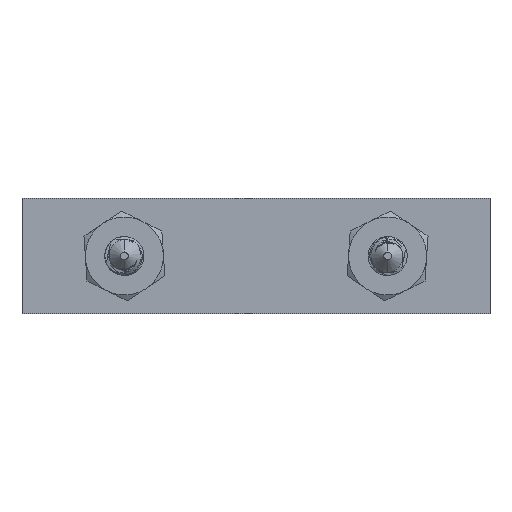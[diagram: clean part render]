
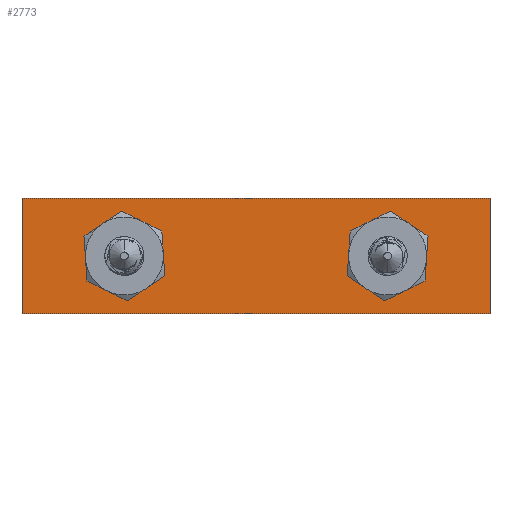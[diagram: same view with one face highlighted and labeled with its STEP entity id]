
A CAD part, front view. The second image highlights one B-rep face of the part: STEP entity #2773.
In plain terms, the highlighted planar face has unit normal (0, -1, 0).
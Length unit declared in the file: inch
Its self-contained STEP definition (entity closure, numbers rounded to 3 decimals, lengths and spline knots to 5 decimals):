
#205 = CARTESIAN_POINT ( 'NONE',  ( 3., 0.05, 0.37165 ) ) ;
#399 = EDGE_LOOP ( 'NONE', ( #7764, #10011 ) ) ;
#897 = EDGE_CURVE ( 'Edge12', #5875, #11857, #14038, .T. ) ;
#1964 = CARTESIAN_POINT ( 'NONE',  ( 3., 0.05, 0.875 ) ) ;
#2041 = CARTESIAN_POINT ( 'NONE',  ( 0.65625, 0.05, 0. ) ) ;
#2093 = FACE_BOUND ( 'NONE', #399, .T. ) ;
#2246 = CIRCLE ( 'NONE', #16983, 0.1875 ) ;
#2731 = LINE ( 'NONE', #9289, #3284 ) ;
#2773 = ADVANCED_FACE ( 'Face6', ( #15743, #11765, #2093 ), #15575, .T. ) ;
#2836 = LINE ( 'NONE', #5626, #16326 ) ;
#3060 = CIRCLE ( 'NONE', #3925, 0.1875 ) ;
#3176 = VERTEX_POINT ( 'NONE', #4861 ) ;
#3284 = VECTOR ( 'NONE', #7972, 39.37008 ) ;
#3514 = VERTEX_POINT ( 'NONE', #6976 ) ;
#3655 = CARTESIAN_POINT ( 'NONE',  ( 0.65625, 0.05, 0. ) ) ;
#3734 = DIRECTION ( 'NONE',  ( 0., 0., -1. ) ) ;
#3925 = AXIS2_PLACEMENT_3D ( 'NONE', #6370, #14138, #8832 ) ;
#4048 = DIRECTION ( 'NONE',  ( 0., 0., 1. ) ) ;
#4134 = ORIENTED_EDGE ( 'NONE', *, *, #7220, .T. ) ;
#4137 = CARTESIAN_POINT ( 'NONE',  ( 2.34375, 0.05, 0. ) ) ;
#4541 = EDGE_CURVE ( 'Edge13', #11901, #14878, #2731, .T. ) ;
#4861 = CARTESIAN_POINT ( 'NONE',  ( 2.34375, 0.05, -0.1875 ) ) ;
#4889 = VERTEX_POINT ( 'NONE', #11172 ) ;
#5090 = ORIENTED_EDGE ( 'NONE', *, *, #4541, .T. ) ;
#5132 = ORIENTED_EDGE ( 'NONE', *, *, #5903, .F. ) ;
#5217 = DIRECTION ( 'NONE',  ( 0., 1., 0. ) ) ;
#5626 = CARTESIAN_POINT ( 'NONE',  ( 0., 0.05, 0. ) ) ;
#5875 = VERTEX_POINT ( 'NONE', #14113 ) ;
#5903 = EDGE_CURVE ( 'Edge10', #17258, #14878, #8384, .T. ) ;
#6350 = EDGE_CURVE ( 'Edge6', #3514, #11901, #2836, .T. ) ;
#6370 = CARTESIAN_POINT ( 'NONE',  ( 2.34375, 0.05, 0. ) ) ;
#6963 = ORIENTED_EDGE ( 'NONE', *, *, #6350, .T. ) ;
#6976 = CARTESIAN_POINT ( 'NONE',  ( 0., 0.05, 0.37165 ) ) ;
#7167 = CARTESIAN_POINT ( 'NONE',  ( 0.65625, 0.05, 0.1875 ) ) ;
#7220 = EDGE_CURVE ( 'NONE', #17258, #3514, #12120, .T. ) ;
#7401 = DIRECTION ( 'NONE',  ( 0., 0., -1. ) ) ;
#7441 = DIRECTION ( 'NONE',  ( 0., -1., 0. ) ) ;
#7694 = CARTESIAN_POINT ( 'NONE',  ( 0., 0.05, 0. ) ) ;
#7764 = ORIENTED_EDGE ( 'NONE', *, *, #897, .T. ) ;
#7935 = CARTESIAN_POINT ( 'NONE',  ( 3., 0.05, -0.37165 ) ) ;
#7972 = DIRECTION ( 'NONE',  ( 1., 0., 0. ) ) ;
#8150 = CIRCLE ( 'NONE', #17218, 0.1875 ) ;
#8384 = LINE ( 'NONE', #1964, #8393 ) ;
#8393 = VECTOR ( 'NONE', #7401, 39.37008 ) ;
#8455 = ORIENTED_EDGE ( 'NONE', *, *, #17522, .T. ) ;
#8479 = ORIENTED_EDGE ( 'NONE', *, *, #14796, .T. ) ;
#8832 = DIRECTION ( 'NONE',  ( 0., 0., 1. ) ) ;
#9052 = DIRECTION ( 'NONE',  ( 0., 1., 0. ) ) ;
#9289 = CARTESIAN_POINT ( 'NONE',  ( 3., 0.05, -0.37165 ) ) ;
#9330 = CARTESIAN_POINT ( 'NONE',  ( 0., 0.05, -0.37165 ) ) ;
#10011 = ORIENTED_EDGE ( 'NONE', *, *, #16078, .T. ) ;
#10300 = DIRECTION ( 'NONE',  ( 0., 0., -1. ) ) ;
#11000 = DIRECTION ( 'NONE',  ( 0., 0., -1. ) ) ;
#11172 = CARTESIAN_POINT ( 'NONE',  ( 2.34375, 0.05, 0.1875 ) ) ;
#11680 = DIRECTION ( 'NONE',  ( 0., 0., -1. ) ) ;
#11765 = FACE_OUTER_BOUND ( 'NONE', #15693, .T. ) ;
#11857 = VERTEX_POINT ( 'NONE', #7167 ) ;
#11901 = VERTEX_POINT ( 'NONE', #9330 ) ;
#12120 = LINE ( 'NONE', #17539, #17211 ) ;
#12685 = DIRECTION ( 'NONE',  ( 0., 1., 0. ) ) ;
#12922 = AXIS2_PLACEMENT_3D ( 'NONE', #7694, #7441, #11680 ) ;
#13786 = DIRECTION ( 'NONE',  ( -1., 0., 0. ) ) ;
#14038 = CIRCLE ( 'NONE', #16869, 0.1875 ) ;
#14113 = CARTESIAN_POINT ( 'NONE',  ( 0.65625, 0.05, -0.1875 ) ) ;
#14138 = DIRECTION ( 'NONE',  ( 0., 1., 0. ) ) ;
#14796 = EDGE_CURVE ( 'Edge7', #4889, #3176, #3060, .T. ) ;
#14878 = VERTEX_POINT ( 'NONE', #7935 ) ;
#15575 = PLANE ( 'NONE',  #12922 ) ;
#15693 = EDGE_LOOP ( 'NONE', ( #4134, #6963, #5090, #5132 ) ) ;
#15743 = FACE_BOUND ( 'NONE', #17487, .T. ) ;
#16078 = EDGE_CURVE ( 'Edge12', #11857, #5875, #2246, .T. ) ;
#16326 = VECTOR ( 'NONE', #11000, 39.37008 ) ;
#16869 = AXIS2_PLACEMENT_3D ( 'NONE', #2041, #12685, #10300 ) ;
#16983 = AXIS2_PLACEMENT_3D ( 'NONE', #3655, #9052, #3734 ) ;
#17211 = VECTOR ( 'NONE', #13786, 39.37008 ) ;
#17218 = AXIS2_PLACEMENT_3D ( 'NONE', #4137, #5217, #4048 ) ;
#17258 = VERTEX_POINT ( 'NONE', #205 ) ;
#17487 = EDGE_LOOP ( 'NONE', ( #8455, #8479 ) ) ;
#17522 = EDGE_CURVE ( 'Edge7', #3176, #4889, #8150, .T. ) ;
#17539 = CARTESIAN_POINT ( 'NONE',  ( 3., 0.05, 0.37165 ) ) ;
